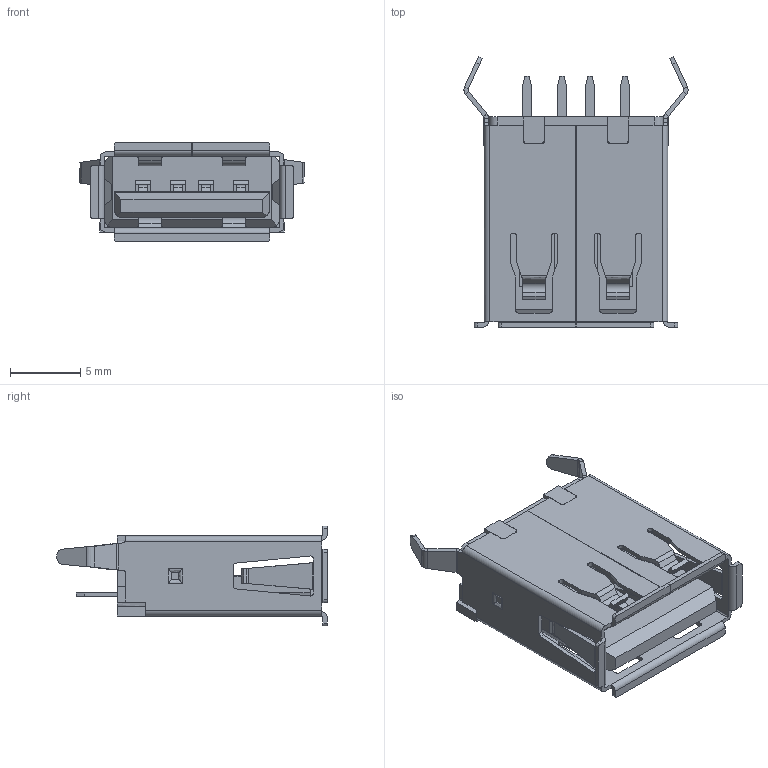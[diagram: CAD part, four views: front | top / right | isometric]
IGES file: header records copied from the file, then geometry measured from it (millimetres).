
Global section: file name: Filename.iges; native system: Open CASCADE 7.3; preprocessor: Open CASCADE IGES processor 7.3; date: 20201209.121357; units: millimetre
Bounding box: 16 x 19.3 x 7.12 mm (x, y, z)
Surface area: 2271 mm2 (no closed solid volume)
Topology: 0 solids, 0 shells, 594 faces, 3290 edges, 3290 vertices
Faces by surface type: plane 424, revolution 162, bspline 8
